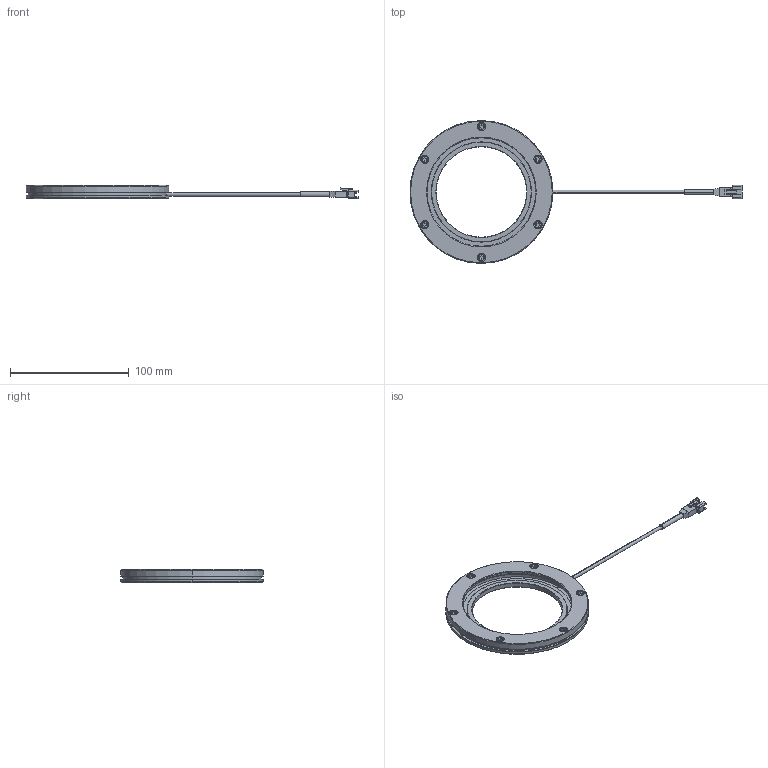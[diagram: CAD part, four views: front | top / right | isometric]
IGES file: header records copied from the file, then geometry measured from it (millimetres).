
Start section: 3D InterOp IGES (v. 2019 1.0.2), Spatial Corp. Copyright (c) 1999-2017.
Global section: file name: VHR-12076_DRAWING_3D.iges; native system: Spatial Corp.; preprocessor: 3D InterOp ACIS/IGES; author: Noname; organization: Noname; date: 20231003.110600; units: millimetre
Bounding box: 279 x 120 x 11 mm (x, y, z)
Surface area: 36099.3 mm2 (no closed solid volume)
Topology: 0 solids, 0 shells, 486 faces, 2236 edges, 2236 vertices
Faces by surface type: extrusion 260, revolution 221, bspline 5
